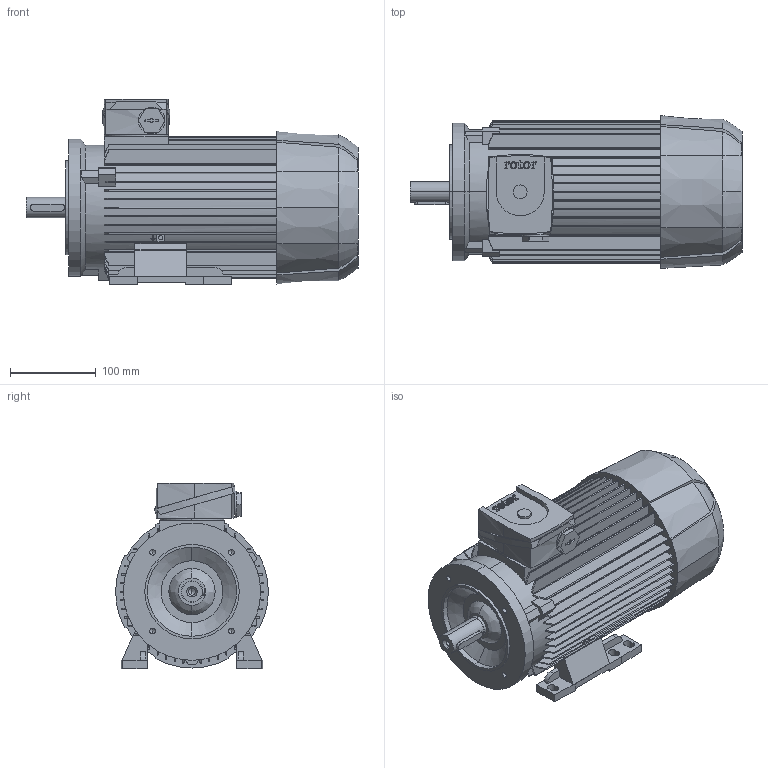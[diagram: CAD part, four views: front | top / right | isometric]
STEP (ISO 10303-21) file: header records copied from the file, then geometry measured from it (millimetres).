
FILE_DESCRIPTION (( 'STEP AP203' ), '1' );
FILE_NAME ('6RN90L02E26 IM2141-B.STEP', '2017-01-18T07:38:16', ( 'rotor' ), ( 'Hewlett-Packard Company' ), 'SwSTEP 2.0', 'SolidWorks 2015', '' );
FILE_SCHEMA (( 'CONFIG_CONTROL_DESIGN' ));
Length unit declared in the file: millimetre
Products named in the file (1): 6RN90L02E26 IM2141-B
Bounding box: 387 x 178 x 216.5 mm (x, y, z)
Volume: 6810761.7 mm3; surface area: 486827.4 mm2
Topology: 1 solids, 1 shells, 658 faces, 1859 edges, 1222 vertices
Faces by surface type: plane 394, cylinder 138, bspline 99, cone 27
Entity records: 24250 total; most frequent: CARTESIAN_POINT 7660, ORIENTED_EDGE 3698, DIRECTION 3124, EDGE_CURVE 1849, VERTEX_POINT 1222, LINE 1098, VECTOR 1098, AXIS2_PLACEMENT_3D 1013
